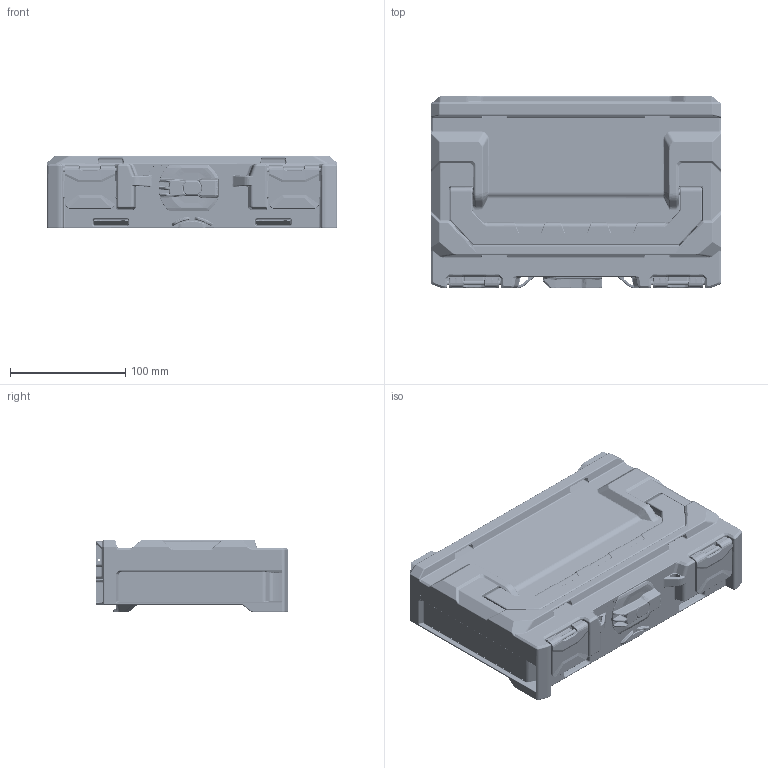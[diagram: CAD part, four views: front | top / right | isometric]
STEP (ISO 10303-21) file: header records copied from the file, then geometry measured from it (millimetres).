
FILE_DESCRIPTION(/* description */ (''),/* implementation_level */ '2;1');
FILE_NAME(/* name */ 'metaBOX_63_XS_ABS.stp',/* time_stamp */ '2021-11-10T14:28:31+01:00',/* author */ (''),/* organization */ (''),/* preprocessor_version */ 'ST-DEVELOPER v16.7',/* originating_system */ 'SIEMENS PLM Software NX 12.0',/* authorisation */ '');
FILE_SCHEMA (('AUTOMOTIVE_DESIGN { 1 0 10303 214 3 1 1 1 }'));
Products named in the file (1): BU923CE30Bcyc1
Bounding box: 252 x 167.2 x 63 mm (x, y, z)
Volume: 379965.4 mm3; surface area: 404674.6 mm2
Topology: 7 solids, 7 shells, 9382 faces, 22827 edges, 12969 vertices
Faces by surface type: bspline 3377, cylinder 3264, plane 2004, sphere 496, cone 128, torus 113
Full cylindrical faces by diameter (mm): 2 x4, 2.1 x6, 3.9 x2
Entity records: 383166 total; most frequent: CARTESIAN_POINT 138620, ORIENTED_EDGE 44440, DIRECTION 38530, EDGE_CURVE 22220, AXIS2_PLACEMENT_3D 15116, VERTEX_POINT 12948, EDGE_LOOP 9528, ADVANCED_FACE 9382
